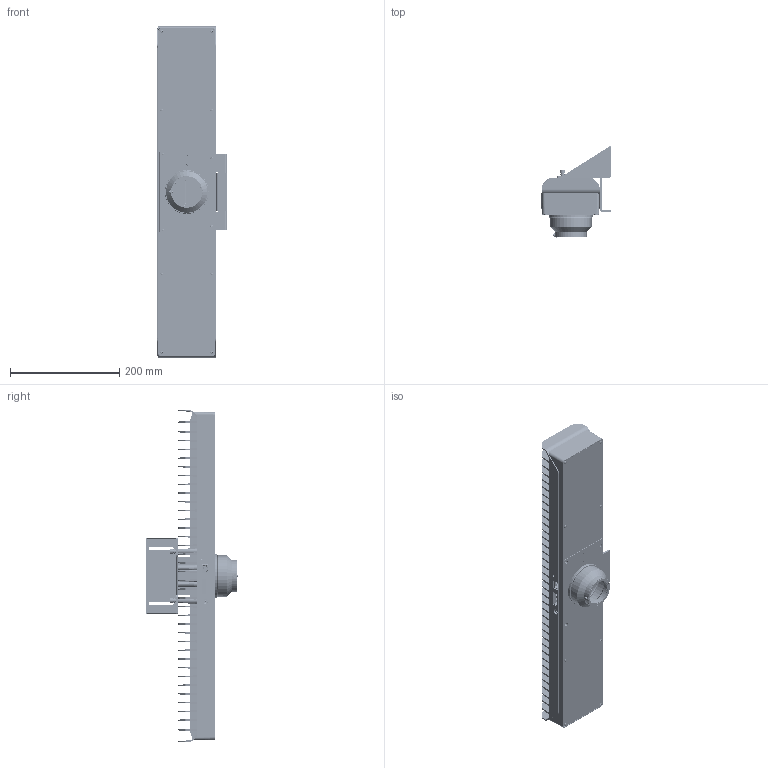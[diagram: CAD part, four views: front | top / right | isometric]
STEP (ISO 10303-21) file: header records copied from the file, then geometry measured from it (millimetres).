
FILE_DESCRIPTION((''),'2;1');
FILE_NAME('ID7080PM-35F_20210906_ASM','2021-09-06T15:38:00',('huguozhe'),(''),'CREO PARAMETRIC BY PTC INC, 2017260','CREO PARAMETRIC BY PTC INC, 2017260','');
FILE_SCHEMA(('AUTOMOTIVE_DESIGN { 1 0 10303 214 1 1 1 1 }'));
Products named in the file (48): DE-13-000351_3_1; DE-14-008252_3_1; 101301592_1_1_1; 101301592_1_2_1; 101301592_1_3_1; 101301592_1_4_1; 101301592_1_ASM_1_ASM; DE-12-000776_1_1; 00_1_1; SC-PM3X6_1_1; DE-12-000776-202100001_1_1; MV-25021_ASM_237_ASM_1_ASM; 101302581_1_1; 101302107_1_1_1; 101302107_1_2_1; 101302107_1_3_1; 101302107_1_ASM_1_ASM; 101300547_1_1; MV-20162-V1_0_ASM_486_ASM_1_ASM; DE-14-013839_6_1; GLASS_1_1; DE-17-000380_1_1; DAOREDIAN_SENSOR_1_1_1; DAOREDIAN_SENSOR_1_2_1; DAOREDIAN_SENSOR_1_3_1; DAOREDIAN_SENSOR_1_ASM_1_ASM; _8KSENSOR0001_ASM_103_ASM_1_ASM; M1_6-3_8_1_1_1_1; __4_5_1_1_1_1; 2_0____1_1_1_1; F__-58_3_1_1_1; PRODUCT_8084_1_1_1_1; PRODUCT_8163_1_1_1_1; F__M72_ASM_2_ASM_1_ASM_2_ASM_1_ASM; F__M72_ASM_2_ASM_ASM_12_ASM_1_ASM; SC-TW1M3X6T10B_1_1; SC-PM3X5-B-NL_1_1; SC-PM3X6T10B_1_1; DE-11-016507_5_1_1; DE-11-016507_5_2_1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
Assembly tree (69 placements, depth 5):
  ID7080PM-35F_20210906_ASM
    00-7017_ASM_1288_ASM_1_ASM
      DE-13-000351_3_1
      DE-14-008252_3_1  x2
      MV-25021_ASM_237_ASM_1_ASM  x4
        101301592_1_ASM_1_ASM
          101301592_1_1_1
          101301592_1_2_1
          101301592_1_3_1
          101301592_1_4_1
        DE-12-000776_1_1
        00_1_1
        SC-PM3X6_1_1
        DE-12-000776-202100001_1_1
      MV-20162-V1_0_ASM_486_ASM_1_ASM
        101302581_1_1
        101302107_1_ASM_1_ASM
          101302107_1_1_1
          101302107_1_2_1
          101302107_1_3_1
        101300547_1_1
      _8KSENSOR0001_ASM_103_ASM_1_ASM
        DE-14-013839_6_1
        GLASS_1_1
        DE-17-000380_1_1
        DAOREDIAN_SENSOR_1_ASM_1_ASM
          DAOREDIAN_SENSOR_1_1_1
          DAOREDIAN_SENSOR_1_2_1
          DAOREDIAN_SENSOR_1_3_1
      F__M72_ASM_2_ASM_ASM_12_ASM_1_ASM
        F__M72_ASM_2_ASM_1_ASM_2_ASM_1_ASM
          M1_6-3_8_1_1_1_1  x3
          __4_5_1_1_1_1
          2_0____1_1_1_1
          F__-58_3_1_1_1
          PRODUCT_8084_1_1_1_1
          PRODUCT_8163_1_1_1_1
      SC-TW1M3X6T10B_1_1
      SC-PM3X5-B-NL_1_1  x12
      SC-PM3X6T10B_1_1
      DE-11-016507_5_ASM_1_ASM
        DE-11-016507_5_1_1
        DE-11-016507_5_2_1
        DE-11-016507_5_3_1
      SC-HSCSFM6X12_ASM_1_ASM_1_ASM  x4
        SC-HSCM6X12-GB70_1_1_1
        SW-6-SUS-GB93_1_1
        PW-6-SUS-GB97_1_1_1
Bounding box: 127.6 x 168.1 x 608.26 mm (x, y, z)
Volume: 2172386.2 mm3; surface area: 982273.8 mm2
Topology: 91 solids, 116 shells, 10271 faces, 29196 edges, 19139 vertices
Faces by surface type: plane 4881, extrusion 2179, cylinder 1555, cone 917, revolution 432, torus 150, bspline 125, sphere 32
Entity records: 227405 total; most frequent: CARTESIAN_POINT 59429, ORIENTED_EDGE 30942, DIRECTION 26412, EDGE_CURVE 15518, VECTOR 10546, VERTEX_POINT 10298, LINE 9987, AXIS2_PLACEMENT_3D 7879
